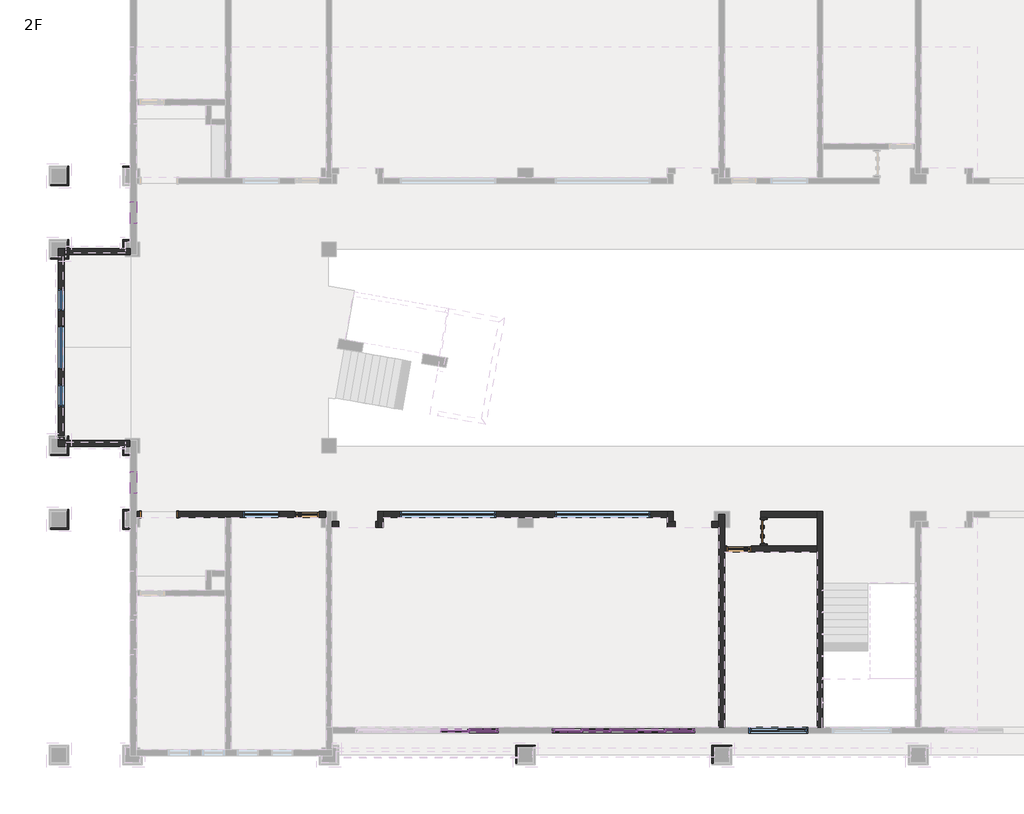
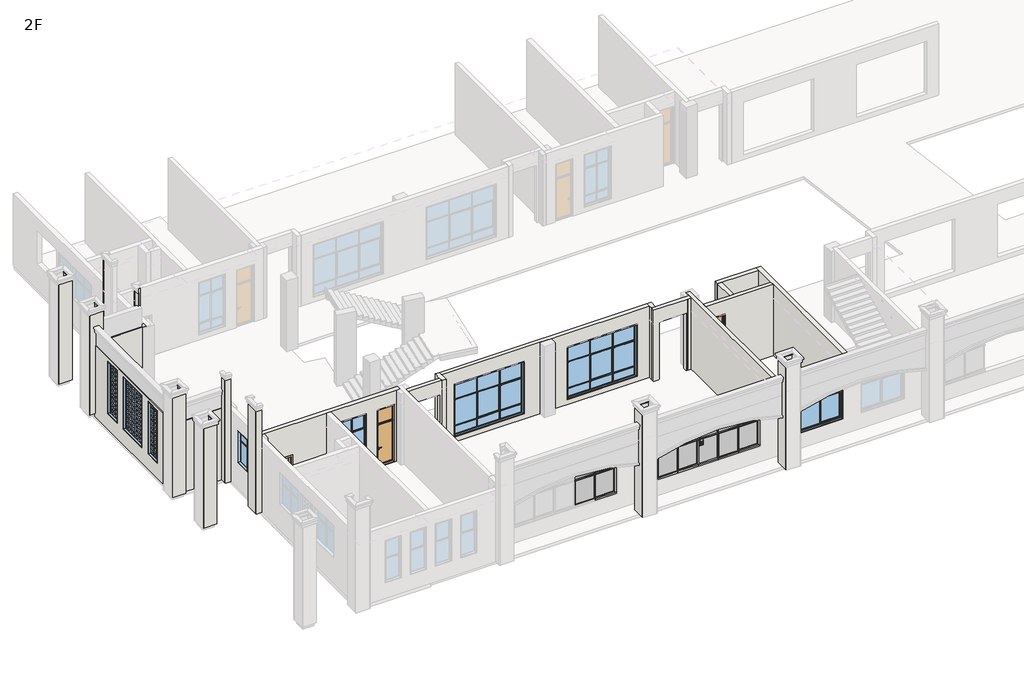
# One storey, part 2 of 16: 34 walls, 33 members, 11 plates, 9 windows, 4 doors.
"""IFC4 building model written with IfcOpenShell, lengths in millimetres."""

from ifc_helpers import new_model, si_unit, frame, origin, place, context, project, spatial, polyline, outline, extrude, faceted_brep, transform, mapped, element, save
from components import door_014e05d9, dk2_dk2_fd451be2, m2_m2_dfb05117, m2_m2_a1934b10, member_7564be38, member_1f4d75dd, member_0b7842ad, member_163d5e45, member_ffafc35e, member_2b011958, member_9c26cac3, member_6c42befd, member_a374fdad, plate_1cc4df2b, plate_4fa5932a, plate_00f9c624, plate_18a10205, plate_942ffe46, byc2_byc2_f14416d1, byc3_byc3_bbe23264, lc2_lc2_631be3da, lc4_lc4_4954e093, lc5_lc5_223d64ff, lc6_lc6_03a52bd1

model = new_model("IFC4")

# Units and contexts
model_context = context("Model", 3, world=origin())
ifc_project = project(units=[si_unit("LENGTHUNIT", "METRE", prefix="MILLI")], contexts=[model_context])

# Site, building, storey
site = spatial("IfcSite", under=ifc_project)
building = spatial("IfcBuilding", under=site)
storey = spatial("IfcBuildingStorey", under=building, Name="2F", Elevation=4200.0)

# Doors
placement = place(None, origin())
door_shape = door_014e05d9(model_context)
element("IfcDoor", 1, ObjectType="FM(丙）1 : FM(丙）1", at=placement, inside=storey, context=model_context, shape_type="MappedRepresentation", body=[
    mapped(door_shape, transform((28700.0000027, 9100.0, 4200.0), x_axis=(0.0, 1.0, 0.0), y_axis=(-1.0, 0.0, 0.0), z_axis=(0.0, 0.0, 1.0))),
])
dk2_dk2_shape = dk2_dk2_fd451be2(model_context)
element("IfcDoor", 2, ObjectType="DK2 : DK2", at=placement, inside=storey, context=model_context, shape_type="MappedRepresentation", body=[
    mapped(dk2_dk2_shape, transform((4075.0, 9800.276907, 4200.0), x_axis=(-1.0, 0.0, 0.0), y_axis=(0.0, -1.0, 0.0), z_axis=(0.0, 0.0, 1.0))),
])
m2_m2_shape = m2_m2_dfb05117(model_context)
element("IfcDoor", 3, ObjectType="M2 : M2", at=placement, inside=storey, context=model_context, shape_type="MappedRepresentation", body=[
    mapped(m2_m2_shape, transform((10100.0, 9800.276907, 4200.0), x_axis=(-1.0, 0.0, 0.0), y_axis=(0.0, -1.0, 0.0), z_axis=(0.0, 0.0, 1.0))),
])
m2_m2_2_shape = m2_m2_a1934b10(model_context)
element("IfcDoor", 4, ObjectType="M2 : M2", at=placement, inside=storey, context=model_context, shape_type="MappedRepresentation", body=[
    mapped(m2_m2_2_shape, transform((27700.0000004, 8399.6678355, 4200.0), x_axis=(1.0, 0.0, 0.0), y_axis=(0.0, 1.0, 0.0), z_axis=(0.0, 0.0, 1.0))),
])

# Members
member_shape = member_7564be38(model_context)
element("IfcMember", 5, ObjectType="矩形竖梃 : 教学楼 – 矩形竖梃 – 100x150mm", at=placement, inside=storey, context=model_context, shape_type="MappedRepresentation", body=[
    mapped(member_shape, transform((17899.9999993, 990.0, 7600.0), x_axis=(0.0, 0.0, 1.0), y_axis=(0.0, -1.0, 0.0), z_axis=(1.0, 0.0, 0.0))),
])
element("IfcMember", 6, ObjectType="矩形竖梃 : 教学楼 – 矩形竖梃 – 100x150mm", at=placement, inside=storey, context=model_context, shape_type="MappedRepresentation", body=[
    mapped(member_shape, transform((25900.0, 990.0, 7600.0), x_axis=(0.0, 0.0, 1.0), y_axis=(0.0, -1.0, 0.0), z_axis=(1.0, 0.0, 0.0))),
])
element("IfcMember", 7, ObjectType="矩形竖梃 : 教学楼 – 矩形竖梃 – 100x150mm", at=placement, inside=storey, context=model_context, shape_type="MappedRepresentation", body=[
    mapped(member_shape, transform((20100.0, 990.0, 5100.0), x_axis=(0.0, 0.0, -1.0), y_axis=(0.0, -1.0, 0.0), z_axis=(-1.0, 0.0, 0.0))),
])
member_2_shape = member_1f4d75dd(model_context)
element("IfcMember", 8, ObjectType="矩形竖梃 : 教学楼 – 矩形竖梃 – 50x150mm", at=placement, inside=storey, context=model_context, shape_type="MappedRepresentation", body=[
    mapped(member_2_shape, transform((22450.0, 990.0, 5200.0), x_axis=(1.0, 0.0, 0.0), y_axis=(0.0, -1.0, 0.0), z_axis=(0.0, 0.0, -1.0))),
])
element("IfcMember", 9, ObjectType="矩形竖梃 : 教学楼 – 矩形竖梃 – 50x150mm", at=placement, inside=storey, context=model_context, shape_type="MappedRepresentation", body=[
    mapped(member_2_shape, transform((23550.0, 990.0, 5200.0), x_axis=(1.0, 0.0, 0.0), y_axis=(0.0, -1.0, 0.0), z_axis=(0.0, 0.0, -1.0))),
])
member_3_shape = member_0b7842ad(model_context)
element("IfcMember", 10, ObjectType="矩形竖梃 : 教学楼 – 矩形竖梃 – 50x150mm", at=placement, inside=storey, context=model_context, shape_type="MappedRepresentation", body=[
    mapped(member_3_shape, transform((21300.0, 990.0, 6650.0), x_axis=(0.0, 0.0, 1.0), y_axis=(0.0, -1.0, 0.0), z_axis=(1.0, 0.0, 0.0))),
])
member_4_shape = member_163d5e45(model_context)
element("IfcMember", 11, ObjectType="矩形竖梃 : 教学楼 – 矩形竖梃 – 50x150mm", at=placement, inside=storey, context=model_context, shape_type="MappedRepresentation", body=[
    mapped(member_4_shape, transform((16699.9999993, 990.0, 6650.0), x_axis=(0.0, 0.0, 1.0), y_axis=(0.0, -1.0, 0.0), z_axis=(1.0, 0.0, 0.0))),
])
element("IfcMember", 12, ObjectType="矩形竖梃 : 教学楼 – 矩形竖梃 – 50x150mm", at=placement, inside=storey, context=model_context, shape_type="MappedRepresentation", body=[
    mapped(member_4_shape, transform((22450.0, 990.0, 6650.0), x_axis=(0.0, 0.0, 1.0), y_axis=(0.0, -1.0, 0.0), z_axis=(1.0, 0.0, 0.0))),
])
element("IfcMember", 13, ObjectType="矩形竖梃 : 教学楼 – 矩形竖梃 – 50x150mm", at=placement, inside=storey, context=model_context, shape_type="MappedRepresentation", body=[
    mapped(member_4_shape, transform((24700.0, 990.0, 6650.0), x_axis=(0.0, 0.0, 1.0), y_axis=(0.0, -1.0, 0.0), z_axis=(1.0, 0.0, 0.0))),
])
element("IfcMember", 14, ObjectType="矩形竖梃 : 教学楼 – 矩形竖梃 – 50x150mm", at=placement, inside=storey, context=model_context, shape_type="MappedRepresentation", body=[
    mapped(member_3_shape, transform((23550.0, 990.0, 6650.0), x_axis=(0.0, 0.0, 1.0), y_axis=(0.0, -1.0, 0.0), z_axis=(1.0, 0.0, 0.0))),
])
element("IfcMember", 15, ObjectType="矩形竖梃 : 教学楼 – 矩形竖梃 – 50x150mm", at=placement, inside=storey, context=model_context, shape_type="MappedRepresentation", body=[
    mapped(member_3_shape, transform((17799.9999993, 990.0, 6650.0), x_axis=(0.0, 0.0, 1.0), y_axis=(0.0, -1.0, 0.0), z_axis=(1.0, 0.0, 0.0))),
])
element("IfcMember", 16, ObjectType="矩形竖梃 : 教学楼 – 矩形竖梃 – 50x150mm", at=placement, inside=storey, context=model_context, shape_type="MappedRepresentation", body=[
    mapped(member_3_shape, transform((25800.0, 990.0, 6650.0), x_axis=(0.0, 0.0, 1.0), y_axis=(0.0, -1.0, 0.0), z_axis=(1.0, 0.0, 0.0))),
])
member_5_shape = member_ffafc35e(model_context)
element("IfcMember", 17, ObjectType="矩形竖梃 : 教学楼 – 矩形竖梃 – 100x150mm", at=placement, inside=storey, context=model_context, shape_type="MappedRepresentation", body=[
    mapped(member_5_shape, transform((21300.0, 990.0, 5100.0), x_axis=(0.0, 0.0, -1.0), y_axis=(0.0, -1.0, 0.0), z_axis=(-1.0, 0.0, 0.0))),
])
member_6_shape = member_2b011958(model_context)
element("IfcMember", 18, ObjectType="矩形竖梃 : 教学楼 – 矩形竖梃 – 100x150mm", at=placement, inside=storey, context=model_context, shape_type="MappedRepresentation", body=[
    mapped(member_6_shape, transform((22450.0, 990.0, 5100.0), x_axis=(0.0, 0.0, -1.0), y_axis=(0.0, -1.0, 0.0), z_axis=(-1.0, 0.0, 0.0))),
])
element("IfcMember", 19, ObjectType="矩形竖梃 : 教学楼 – 矩形竖梃 – 100x150mm", at=placement, inside=storey, context=model_context, shape_type="MappedRepresentation", body=[
    mapped(member_5_shape, transform((23550.0, 990.0, 5100.0), x_axis=(0.0, 0.0, -1.0), y_axis=(0.0, -1.0, 0.0), z_axis=(-1.0, 0.0, 0.0))),
])
element("IfcMember", 20, ObjectType="矩形竖梃 : 教学楼 – 矩形竖梃 – 100x150mm", at=placement, inside=storey, context=model_context, shape_type="MappedRepresentation", body=[
    mapped(member_shape, transform((16699.9999993, 990.0, 5100.0), x_axis=(0.0, 0.0, -1.0), y_axis=(0.0, -1.0, 0.0), z_axis=(-1.0, 0.0, 0.0))),
])
element("IfcMember", 21, ObjectType="矩形竖梃 : 教学楼 – 矩形竖梃 – 100x150mm", at=placement, inside=storey, context=model_context, shape_type="MappedRepresentation", body=[
    mapped(member_shape, transform((24700.0, 990.0, 5100.0), x_axis=(0.0, 0.0, -1.0), y_axis=(0.0, -1.0, 0.0), z_axis=(-1.0, 0.0, 0.0))),
])
element("IfcMember", 22, ObjectType="矩形竖梃 : 教学楼 – 矩形竖梃 – 100x150mm", at=placement, inside=storey, context=model_context, shape_type="MappedRepresentation", body=[
    mapped(member_shape, transform((21300.0, 990.0, 7600.0), x_axis=(0.0, 0.0, 1.0), y_axis=(0.0, -1.0, 0.0), z_axis=(1.0, 0.0, 0.0))),
])
element("IfcMember", 23, ObjectType="矩形竖梃 : 教学楼 – 矩形竖梃 – 100x150mm", at=placement, inside=storey, context=model_context, shape_type="MappedRepresentation", body=[
    mapped(member_5_shape, transform((16699.9999993, 990.0, 7600.0), x_axis=(0.0, 0.0, 1.0), y_axis=(0.0, -1.0, 0.0), z_axis=(1.0, 0.0, 0.0))),
])
element("IfcMember", 24, ObjectType="矩形竖梃 : 教学楼 – 矩形竖梃 – 100x150mm", at=placement, inside=storey, context=model_context, shape_type="MappedRepresentation", body=[
    mapped(member_5_shape, transform((22450.0, 990.0, 7600.0), x_axis=(0.0, 0.0, 1.0), y_axis=(0.0, -1.0, 0.0), z_axis=(1.0, 0.0, 0.0))),
])
element("IfcMember", 25, ObjectType="矩形竖梃 : 教学楼 – 矩形竖梃 – 100x150mm", at=placement, inside=storey, context=model_context, shape_type="MappedRepresentation", body=[
    mapped(member_5_shape, transform((24700.0, 990.0, 7600.0), x_axis=(0.0, 0.0, 1.0), y_axis=(0.0, -1.0, 0.0), z_axis=(1.0, 0.0, 0.0))),
])
element("IfcMember", 26, ObjectType="矩形竖梃 : 教学楼 – 矩形竖梃 – 100x150mm", at=placement, inside=storey, context=model_context, shape_type="MappedRepresentation", body=[
    mapped(member_6_shape, transform((23550.0, 990.0, 7600.0), x_axis=(0.0, 0.0, 1.0), y_axis=(0.0, -1.0, 0.0), z_axis=(1.0, 0.0, 0.0))),
])
member_7_shape = member_9c26cac3(model_context)
element("IfcMember", 27, ObjectType="矩形竖梃 : 教学楼 – 矩形竖梃 – 50x150mm", at=placement, inside=storey, context=model_context, shape_type="MappedRepresentation", body=[
    mapped(member_7_shape, transform((16699.9999993, 990.0, 6675.0), x_axis=(1.0, 0.0, 0.0), y_axis=(0.0, -1.0, 0.0), z_axis=(0.0, 0.0, -1.0))),
])
element("IfcMember", 28, ObjectType="矩形竖梃 : 教学楼 – 矩形竖梃 – 50x150mm", at=placement, inside=storey, context=model_context, shape_type="MappedRepresentation", body=[
    mapped(member_7_shape, transform((21300.0, 990.0, 6675.0), x_axis=(1.0, 0.0, 0.0), y_axis=(0.0, -1.0, 0.0), z_axis=(0.0, 0.0, -1.0))),
])
element("IfcMember", 29, ObjectType="矩形竖梃 : 教学楼 – 矩形竖梃 – 50x150mm", at=placement, inside=storey, context=model_context, shape_type="MappedRepresentation", body=[
    mapped(member_7_shape, transform((22450.0, 990.0, 6675.0), x_axis=(1.0, 0.0, 0.0), y_axis=(0.0, -1.0, 0.0), z_axis=(0.0, 0.0, -1.0))),
])
element("IfcMember", 30, ObjectType="矩形竖梃 : 教学楼 – 矩形竖梃 – 50x150mm", at=placement, inside=storey, context=model_context, shape_type="MappedRepresentation", body=[
    mapped(member_7_shape, transform((23550.0, 990.0, 6675.0), x_axis=(1.0, 0.0, 0.0), y_axis=(0.0, -1.0, 0.0), z_axis=(0.0, 0.0, -1.0))),
])
element("IfcMember", 31, ObjectType="矩形竖梃 : 教学楼 – 矩形竖梃 – 50x150mm", at=placement, inside=storey, context=model_context, shape_type="MappedRepresentation", body=[
    mapped(member_7_shape, transform((24700.0, 990.0, 6675.0), x_axis=(1.0, 0.0, 0.0), y_axis=(0.0, -1.0, 0.0), z_axis=(0.0, 0.0, -1.0))),
])
member_8_shape = member_6c42befd(model_context)
element("IfcMember", 32, ObjectType="矩形竖梃 : 教学楼 – 矩形竖梃 – 100x150mm", at=placement, inside=storey, context=model_context, shape_type="MappedRepresentation", body=[
    mapped(member_8_shape, transform((20100.0, 990.0, 7500.0), x_axis=(-1.0, 0.0, 0.0), y_axis=(0.0, -1.0, 0.0), z_axis=(0.0, 0.0, 1.0))),
])
member_9_shape = member_a374fdad(model_context)
element("IfcMember", 33, ObjectType="矩形竖梃 : 教学楼 – 矩形竖梃 – 100x150mm", at=placement, inside=storey, context=model_context, shape_type="MappedRepresentation", body=[
    mapped(member_9_shape, transform((17899.9999993, 990.0, 5200.0), x_axis=(1.0, 0.0, 0.0), y_axis=(0.0, -1.0, 0.0), z_axis=(0.0, 0.0, -1.0))),
])
element("IfcMember", 34, ObjectType="矩形竖梃 : 教学楼 – 矩形竖梃 – 100x150mm", at=placement, inside=storey, context=model_context, shape_type="MappedRepresentation", body=[
    mapped(member_9_shape, transform((25900.0, 990.0, 5200.0), x_axis=(1.0, 0.0, 0.0), y_axis=(0.0, -1.0, 0.0), z_axis=(0.0, 0.0, -1.0))),
])
element("IfcMember", 35, ObjectType="矩形竖梃 : 教学楼 – 矩形竖梃 – 100x150mm", at=placement, inside=storey, context=model_context, shape_type="MappedRepresentation", body=[
    mapped(member_8_shape, transform((17899.9999993, 990.0, 6650.0), x_axis=(1.0, 0.0, 0.0), y_axis=(0.0, -1.0, 0.0), z_axis=(0.0, 0.0, -1.0))),
])
element("IfcMember", 36, ObjectType="矩形竖梃 : 教学楼 – 矩形竖梃 – 100x150mm", at=placement, inside=storey, context=model_context, shape_type="MappedRepresentation", body=[
    mapped(member_8_shape, transform((25900.0, 990.0, 6650.0), x_axis=(1.0, 0.0, 0.0), y_axis=(0.0, -1.0, 0.0), z_axis=(0.0, 0.0, -1.0))),
])
element("IfcMember", 37, ObjectType="矩形竖梃 : 教学楼 – 矩形竖梃 – 100x150mm", at=placement, inside=storey, context=model_context, shape_type="MappedRepresentation", body=[
    mapped(member_9_shape, transform((20100.0, 990.0, 6650.0), x_axis=(-1.0, 0.0, 0.0), y_axis=(0.0, -1.0, 0.0), z_axis=(0.0, 0.0, 1.0))),
])

# Plates
plate_shape = plate_1cc4df2b(model_context)
element("IfcPlate", 38, ObjectType="系统嵌板 : 玻璃", at=placement, inside=storey, context=model_context, shape_type="MappedRepresentation", body=[
    mapped(plate_shape, transform((17262.4999993, 990.0, 6675.0), x_axis=(1.0, 0.0, 0.0), y_axis=(0.0, 1.0, 0.0), z_axis=(0.0, 0.0, 1.0))),
])
element("IfcPlate", 39, ObjectType="系统嵌板 : 玻璃", at=placement, inside=storey, context=model_context, shape_type="MappedRepresentation", body=[
    mapped(plate_shape, transform((20737.5, 990.0, 6675.0), x_axis=(1.0, 0.0, 0.0), y_axis=(0.0, 1.0, 0.0), z_axis=(0.0, 0.0, 1.0))),
])
element("IfcPlate", 40, ObjectType="系统嵌板 : 玻璃", at=placement, inside=storey, context=model_context, shape_type="MappedRepresentation", body=[
    mapped(plate_shape, transform((25262.5, 990.0, 6675.0), x_axis=(1.0, 0.0, 0.0), y_axis=(0.0, 1.0, 0.0), z_axis=(0.0, 0.0, 1.0))),
])
plate_2_shape = plate_4fa5932a(model_context)
element("IfcPlate", 41, ObjectType="系统嵌板 : 玻璃", at=placement, inside=storey, context=model_context, shape_type="MappedRepresentation", body=[
    mapped(plate_2_shape, transform((16124.9999993, 990.0, 6675.0), x_axis=(1.0, 0.0, 0.0), y_axis=(0.0, 1.0, 0.0), z_axis=(0.0, 0.0, 1.0))),
])
element("IfcPlate", 42, ObjectType="系统嵌板 : 玻璃", at=placement, inside=storey, context=model_context, shape_type="MappedRepresentation", body=[
    mapped(plate_2_shape, transform((21875.0, 990.0, 6675.0), x_axis=(1.0, 0.0, 0.0), y_axis=(0.0, 1.0, 0.0), z_axis=(0.0, 0.0, 1.0))),
])
element("IfcPlate", 43, ObjectType="系统嵌板 : 玻璃", at=placement, inside=storey, context=model_context, shape_type="MappedRepresentation", body=[
    mapped(plate_2_shape, transform((24125.0, 990.0, 6675.0), x_axis=(1.0, 0.0, 0.0), y_axis=(0.0, 1.0, 0.0), z_axis=(0.0, 0.0, 1.0))),
])
plate_3_shape = plate_00f9c624(model_context)
element("IfcPlate", 44, ObjectType="系统嵌板 : 玻璃", at=placement, inside=storey, context=model_context, shape_type="MappedRepresentation", body=[
    mapped(plate_3_shape, transform((23000.0, 990.0, 6675.0), x_axis=(1.0, 0.0, 0.0), y_axis=(0.0, 1.0, 0.0), z_axis=(0.0, 0.0, 1.0))),
])
plate_4_shape = plate_18a10205(model_context)
element("IfcPlate", 45, ObjectType="教学楼 - 窗嵌板：双扇推拉窗 : 教学楼 - 窗嵌板：双扇推拉窗", at=placement, inside=storey, context=model_context, shape_type="MappedRepresentation", body=[
    mapped(plate_4_shape, transform((21312.5, 990.0, 5200.0), x_axis=(1.0, 0.0, 0.0), y_axis=(0.0, 1.0, 0.0), z_axis=(0.0, 0.0, 1.0))),
])
element("IfcPlate", 46, ObjectType="教学楼 - 窗嵌板：双扇推拉窗 : 教学楼 - 窗嵌板：双扇推拉窗", at=placement, inside=storey, context=model_context, shape_type="MappedRepresentation", body=[
    mapped(plate_4_shape, transform((16687.4999993, 990.0, 5200.0), x_axis=(1.0, 0.0, 0.0), y_axis=(0.0, 1.0, 0.0), z_axis=(0.0, 0.0, 1.0))),
])
element("IfcPlate", 47, ObjectType="教学楼 - 窗嵌板：双扇推拉窗 : 教学楼 - 窗嵌板：双扇推拉窗", at=placement, inside=storey, context=model_context, shape_type="MappedRepresentation", body=[
    mapped(plate_4_shape, transform((24687.5, 990.0, 5200.0), x_axis=(1.0, 0.0, 0.0), y_axis=(0.0, 1.0, 0.0), z_axis=(0.0, 0.0, 1.0))),
])
plate_5_shape = plate_942ffe46(model_context)
element("IfcPlate", 48, ObjectType="教学楼 - 窗嵌板：外贴消防通道 : 教学楼 - 窗嵌板：外贴消防通道", at=placement, inside=storey, context=model_context, shape_type="MappedRepresentation", body=[
    mapped(plate_5_shape, transform((23000.0, 990.0, 5200.0), x_axis=(1.0, 0.0, 0.0), y_axis=(0.0, 1.0, 0.0), z_axis=(0.0, 0.0, 1.0))),
])

# Walls
element("IfcWall", 49, ObjectType="教学楼 – 涂料内墙 – 200mm", at=placement, inside=storey, context=model_context, shape_type="Brep", body=[
    faceted_brep([(27117.0, 1125.0, 4200.0), (27117.0, 8282.6678355, 4200.0), (27117.0, 8516.6678355, 4200.0), (27117.0, 9283.0, 4200.0), (27117.0, 9800.3045362, 4200.0), (27117.0, 9800.3045362, 8400.0), (27117.0, 9283.0, 8400.0), (27117.0, 8516.6678355, 8400.0), (27117.0, 8282.6678355, 8400.0), (27117.0, 1125.0, 8400.0), (26883.0, 1125.0, 4200.0), (26883.0, 1125.0, 8400.0), (26883.0, 9283.0, 8400.0), (26883.0, 9283.2768993, 8400.0), (26883.0, 9517.2768993, 8400.0), (26883.0, 9800.3045362, 8400.0), (26883.0, 9800.3045362, 4200.0), (26883.0, 9517.2768993, 4200.0), (26883.0, 9283.2768993, 4200.0), (26883.0, 9283.0, 4200.0)], [[[0, 1, 2, 3, 4, 5, 6, 7, 8, 9]], [[10, 11, 12, 13, 14, 15, 16, 17, 18, 19]], [[4, 3, 2, 1, 0, 10, 19, 18, 17, 16]], [[5, 4, 16, 15]], [[9, 8, 7, 6, 5, 15, 14, 13, 12, 11]], [[0, 9, 11, 10]]]),
])
element("IfcWall", 50, ObjectType="教学楼 – 涂料内墙 – 200mm", at=placement, inside=storey, context=model_context, shape_type="Brep", body=[
    faceted_brep([(31117.0000029, 1125.0, 4200.0), (31117.0000029, 9917.3045362, 4200.0), (31117.0000029, 9917.3045362, 8400.0), (31117.0000029, 1125.0, 8400.0), (30883.0000029, 1125.0, 4200.0), (30883.0000029, 1125.0, 8400.0), (30883.0000029, 8282.6678355, 8400.0), (30883.0000029, 8516.6678355, 8400.0), (30883.0000029, 9683.3045362, 8400.0), (30883.0000029, 9917.3045362, 8400.0), (30883.0000029, 9917.3045362, 4200.0), (30883.0000029, 9683.3045362, 4200.0), (30883.0000029, 8516.6678355, 4200.0), (30883.0000029, 8282.6678355, 4200.0)], [[[0, 1, 2, 3]], [[4, 5, 6, 7, 8, 9, 10, 11, 12, 13]], [[1, 0, 4, 13, 12, 11, 10]], [[3, 2, 9, 8, 7, 6, 5]], [[2, 1, 10, 9]], [[0, 3, 5, 4]]]),
])
element("IfcWall", 51, ObjectType="教学楼 – 涂料内墙 – 200mm", at=placement, inside=storey, context=model_context, shape_type="Brep", body=[
    faceted_brep([(28583.0000027, 9683.3045362, 4200.0), (28817.0000027, 9683.3045362, 4200.0), (30883.0000029, 9683.3045362, 4200.0), (30883.0000029, 9683.3045362, 8400.0), (28817.0000027, 9683.3045362, 8400.0), (28583.0000027, 9683.3045362, 8400.0), (28583.0000027, 9917.3045362, 4200.0), (28583.0000027, 9917.3045362, 8400.0), (30883.0000029, 9917.3045362, 8400.0), (30883.0000029, 9917.3045362, 4200.0)], [[[0, 1, 2, 3, 4, 5]], [[6, 7, 8, 9]], [[2, 1, 0, 6, 9]], [[5, 4, 3, 8, 7]], [[3, 2, 9, 8]], [[0, 5, 7, 6]]]),
])
element("IfcWall", 52, ObjectType="教学楼 – 涂料内墙 – 200mm", at=placement, inside=storey, context=model_context, shape_type="Brep", body=[
    faceted_brep([(24782.9999964, 9517.2768993, 8400.0), (25016.9999964, 9517.2768993, 8400.0), (26683.0, 9517.2768993, 8400.0), (26883.0, 9517.2768993, 8400.0), (26883.0, 9517.2768993, 4200.0), (26683.0, 9517.2768993, 4200.0), (26599.9999991, 9517.2768993, 4200.0), (26599.9999991, 9517.2768993, 7600.0), (25099.9999991, 9517.2768993, 7600.0), (25099.9999991, 9517.2768993, 4200.0), (25016.9999964, 9517.2768993, 4200.0), (24782.9999964, 9517.2768993, 4200.0), (26883.0, 9283.2768993, 8400.0), (26683.0, 9283.2768993, 8400.0), (24782.9999964, 9283.2768993, 8400.0), (24782.9999964, 9283.2768993, 4200.0), (25099.9999991, 9283.2768993, 4200.0), (25099.9999991, 9283.2768993, 7600.0), (26599.9999991, 9283.2768993, 7600.0), (26599.9999991, 9283.2768993, 4200.0), (26683.0, 9283.2768993, 4200.0), (26883.0, 9283.2768993, 4200.0)], [[[0, 1, 2, 3, 4, 5, 6, 7, 8, 9, 10, 11]], [[12, 13, 14, 15, 16, 17, 18, 19, 20, 21]], [[15, 11, 10, 9, 16]], [[4, 21, 20, 19, 6, 5]], [[3, 2, 1, 0, 14, 13, 12]], [[0, 11, 15, 14]], [[4, 3, 12, 21]], [[18, 7, 6, 19]], [[7, 18, 17, 8]], [[8, 17, 16, 9]]]),
])
element("IfcWall", 53, ObjectType="教学楼 – 涂料内墙 – 200mm", at=placement, inside=storey, context=model_context, shape_type="Brep", body=[
    faceted_brep([(25016.9999964, 9517.2768993, 4200.0), (25016.9999964, 9917.3045359, 4200.0), (25016.9999964, 9917.3045359, 8400.0), (25016.9999964, 9517.2768993, 8400.0), (24782.9999964, 9517.2768993, 4200.0), (24782.9999964, 9517.2768993, 8400.0), (24782.9999964, 9683.3045359, 8400.0), (24782.9999964, 9917.3045359, 8400.0), (24782.9999964, 9917.3045359, 4200.0), (24782.9999964, 9683.3045359, 4200.0)], [[[0, 1, 2, 3]], [[4, 5, 6, 7, 8, 9]], [[1, 0, 4, 9, 8]], [[3, 2, 7, 6, 5]], [[0, 3, 5, 4]], [[2, 1, 8, 7]]]),
])
element("IfcWall", 54, ObjectType="教学楼 – 涂料内墙 – 200mm", at=placement, inside=storey, context=model_context, shape_type="Brep", body=[
    faceted_brep([(24782.9999964, 9917.3045359, 4200.0), (13216.9999996, 9917.3045359, 4200.0), (13216.9999996, 9917.3045359, 8400.0), (24782.9999964, 9917.3045359, 8400.0), (24099.9999993, 9917.3045359, 4500.0), (24099.9999993, 9917.3045359, 7600.0), (20199.9999993, 9917.3045359, 7600.0), (20199.9999993, 9917.3045359, 4500.0), (17799.9999993, 9917.3045359, 4500.0), (17799.9999993, 9917.3045359, 7600.0), (13899.9999993, 9917.3045359, 7600.0), (13899.9999993, 9917.3045359, 4500.0), (24782.9999964, 9683.3045359, 4200.0), (24782.9999964, 9683.3045359, 8400.0), (19317.0, 9683.3045359, 8400.0), (18683.0, 9683.3045359, 8400.0), (13216.9999996, 9683.3045359, 8400.0), (13216.9999996, 9683.3045359, 4200.0), (18683.0, 9683.3045359, 4200.0), (19317.0, 9683.3045359, 4200.0), (24099.9999993, 9683.3045359, 4500.0), (20199.9999993, 9683.3045359, 4500.0), (20199.9999993, 9683.3045359, 7600.0), (24099.9999993, 9683.3045359, 7600.0), (17799.9999993, 9683.3045359, 4500.0), (13899.9999993, 9683.3045359, 4500.0), (13899.9999993, 9683.3045359, 7600.0), (17799.9999993, 9683.3045359, 7600.0)], [[[0, 1, 2, 3], [4, 5, 6, 7], [8, 9, 10, 11]], [[12, 13, 14, 15, 16, 17, 18, 19], [20, 21, 22, 23], [24, 25, 26, 27]], [[1, 0, 12, 19, 18, 17]], [[3, 2, 16, 15, 14, 13]], [[0, 3, 13, 12]], [[2, 1, 17, 16]], [[5, 4, 20, 23]], [[6, 5, 23, 22]], [[7, 6, 22, 21]], [[4, 7, 21, 20]], [[9, 8, 24, 27]], [[10, 9, 27, 26]], [[11, 10, 26, 25]], [[8, 11, 25, 24]]]),
])
element("IfcWall", 55, ObjectType="教学楼 – 涂料内墙 – 200mm", at=placement, inside=storey, context=model_context, shape_type="Brep", body=[
    faceted_brep([(12982.9999996, 9917.3045359, 4200.0), (12982.9999996, 9517.2768988, 4200.0), (12982.9999996, 9283.2768988, 4200.0), (12982.9999996, 9283.2768988, 8400.0), (12982.9999996, 9517.2768988, 8400.0), (12982.9999996, 9917.3045359, 8400.0), (13216.9999996, 9917.3045359, 4200.0), (13216.9999996, 9917.3045359, 8400.0), (13216.9999996, 9683.3045359, 8400.0), (13216.9999996, 9283.2768988, 8400.0), (13216.9999996, 9283.2768988, 4200.0), (13216.9999996, 9683.3045359, 4200.0)], [[[0, 1, 2, 3, 4, 5]], [[6, 7, 8, 9, 10, 11]], [[2, 1, 0, 6, 11, 10]], [[5, 4, 3, 9, 8, 7]], [[3, 2, 10, 9]], [[0, 5, 7, 6]]]),
])
element("IfcWall", 56, ObjectType="教学楼 – 涂料内墙 – 200mm", at=placement, inside=storey, context=model_context, shape_type="Brep", body=[
    faceted_brep([(11117.0, 9517.2768988, 8400.0), (11317.0, 9517.2768988, 8400.0), (12982.9999996, 9517.2768988, 8400.0), (12982.9999996, 9517.2768988, 4200.0), (12900.0000009, 9517.2768988, 4200.0), (12900.0000009, 9517.2768988, 7600.0), (11400.0000009, 9517.2768988, 7600.0), (11400.0000009, 9517.2768988, 4200.0), (11317.0, 9517.2768988, 4200.0), (11117.0, 9517.2768988, 4200.0), (12982.9999996, 9283.2768988, 8400.0), (11317.0, 9283.2768988, 8400.0), (11117.0, 9283.2768988, 8400.0), (11117.0, 9283.2768988, 4200.0), (11317.0, 9283.2768988, 4200.0), (11400.0000009, 9283.2768988, 4200.0), (11400.0000009, 9283.2768988, 7600.0), (12900.0000009, 9283.2768988, 7600.0), (12900.0000009, 9283.2768988, 4200.0), (12982.9999996, 9283.2768988, 4200.0)], [[[0, 1, 2, 3, 4, 5, 6, 7, 8, 9]], [[10, 11, 12, 13, 14, 15, 16, 17, 18, 19]], [[3, 19, 18, 4]], [[13, 9, 8, 7, 15, 14]], [[2, 1, 0, 12, 11, 10]], [[3, 2, 10, 19]], [[0, 9, 13, 12]], [[17, 5, 4, 18]], [[5, 17, 16, 6]], [[6, 16, 15, 7]]]),
])
element("IfcWall", 57, ObjectType="教学楼 – 涂料内墙 – 200mm", at=placement, inside=storey, context=model_context, shape_type="Brep", body=[
    faceted_brep([(10883.0, 9683.276907, 8400.0), (10683.0, 9683.276907, 8400.0), (7017.0000003, 9683.276907, 8400.0), (6783.0000003, 9683.276907, 8400.0), (3300.0, 9683.276907, 8400.0), (3167.0000002, 9683.276907, 8400.0), (3167.0000002, 9683.276907, 4200.0), (3300.0, 9683.276907, 4200.0), (3300.0, 9683.276907, 6600.0), (4850.0, 9683.276907, 6600.0), (4850.0, 9683.276907, 4200.0), (6783.0000003, 9683.276907, 4200.0), (7017.0000003, 9683.276907, 4200.0), (9600.0, 9683.276907, 4200.0), (9600.0, 9683.276907, 7600.0), (10600.0, 9683.276907, 7600.0), (10600.0, 9683.276907, 4200.0), (10683.0, 9683.276907, 4200.0), (10883.0, 9683.276907, 4200.0), (9000.0000037, 9683.276907, 4500.0), (7500.0000037, 9683.276907, 4500.0), (7500.0000037, 9683.276907, 7600.0), (9000.0000037, 9683.276907, 7600.0), (3167.0000002, 9917.276907, 8400.0), (10883.0, 9917.276907, 8400.0), (10883.0, 9917.276907, 4200.0), (10600.0, 9917.276907, 4200.0), (10600.0, 9917.276907, 7600.0), (9600.0, 9917.276907, 7600.0), (9600.0, 9917.276907, 4200.0), (4850.0, 9917.276907, 4200.0), (4850.0, 9917.276907, 6600.0), (3300.0, 9917.276907, 6600.0), (3300.0, 9917.276907, 4200.0), (3167.0000002, 9917.276907, 4200.0), (9000.0000037, 9917.276907, 4500.0), (9000.0000037, 9917.276907, 7600.0), (7500.0000037, 9917.276907, 7600.0), (7500.0000037, 9917.276907, 4500.0)], [[[0, 1, 2, 3, 4, 5, 6, 7, 8, 9, 10, 11, 12, 13, 14, 15, 16, 17, 18], [19, 20, 21, 22]], [[23, 24, 25, 26, 27, 28, 29, 30, 31, 32, 33, 34], [35, 36, 37, 38]], [[25, 18, 17, 16, 26]], [[6, 34, 33, 7]], [[10, 30, 29, 13, 12, 11]], [[5, 4, 3, 2, 1, 0, 24, 23]], [[0, 18, 25, 24]], [[6, 5, 23, 34]], [[32, 8, 7, 33]], [[8, 32, 31, 9]], [[9, 31, 30, 10]], [[28, 14, 13, 29]], [[14, 28, 27, 15]], [[15, 27, 26, 16]], [[36, 35, 19, 22]], [[37, 36, 22, 21]], [[38, 37, 21, 20]], [[35, 38, 20, 19]]]),
])
element("IfcWall", 58, ObjectType="教学楼 – 涂料内墙 – 200mm", at=placement, inside=storey, context=model_context, shape_type="SweptSolid", body=[
    extrude(outline(polyline([(8516.6678355, 8400.0), (9683.3045362, 8400.0), (9683.3045362, 4200.0), (9600.0, 4200.0), (9600.0, 6300.0), (8600.0, 6300.0), (8600.0, 4200.0), (8516.6678355, 4200.0), (8516.6678355, 8400.0)])), frame((28583.0000027, 0.0, 0.0), z_axis=(1.0, 0.0, 0.0), x_axis=(0.0, 1.0, 0.0)), (0.0, 0.0, 1.0), 234.0),
])
element("IfcWall", 59, ObjectType="教学楼 – 涂料内墙 – 200mm", at=placement, inside=storey, context=model_context, shape_type="Brep", body=[
    faceted_brep([(30883.0000029, 8282.6678355, 8400.0), (27117.0, 8282.6678355, 8400.0), (27117.0, 8282.6678355, 4200.0), (27200.0000004, 8282.6678355, 4200.0), (27200.0000004, 8282.6678355, 7600.0), (28200.0000004, 8282.6678355, 7600.0), (28200.0000004, 8282.6678355, 4200.0), (30883.0000029, 8282.6678355, 4200.0), (27117.0, 8516.6678355, 8400.0), (28583.0000027, 8516.6678355, 8400.0), (28817.0000027, 8516.6678355, 8400.0), (30883.0000029, 8516.6678355, 8400.0), (30883.0000029, 8516.6678355, 4200.0), (28817.0000027, 8516.6678355, 4200.0), (28583.0000027, 8516.6678355, 4200.0), (28200.0000004, 8516.6678355, 4200.0), (28200.0000004, 8516.6678355, 7600.0), (27200.0000004, 8516.6678355, 7600.0), (27200.0000004, 8516.6678355, 4200.0), (27117.0, 8516.6678355, 4200.0)], [[[0, 1, 2, 3, 4, 5, 6, 7]], [[8, 9, 10, 11, 12, 13, 14, 15, 16, 17, 18, 19]], [[12, 7, 6, 15, 14, 13]], [[2, 19, 18, 3]], [[1, 0, 11, 10, 9, 8]], [[0, 7, 12, 11]], [[2, 1, 8, 19]], [[5, 16, 15, 6]], [[16, 5, 4, 17]], [[17, 4, 3, 18]]]),
])
element("IfcWall", 60, ObjectType="教学楼 – 饰面砖外墙 – 200mm", at=placement, inside=storey, context=model_context, shape_type="Brep", body=[
    faceted_brep([(2917.0000002, 12816.6954636, 4200.0), (2700.0, 12816.6954636, 4200.0), (300.0, 12816.6954636, 4200.0), (216.9999988, 12816.6954636, 4200.0), (-33.0000012, 12816.6954636, 4200.0), (-33.0000012, 12816.6954636, 8400.0), (216.9999988, 12816.6954636, 8400.0), (300.0, 12816.6954636, 8400.0), (2700.0, 12816.6954636, 8400.0), (2917.0000002, 12816.6954636, 8400.0), (2917.0000002, 12566.6954636, 4200.0), (2917.0000002, 12566.6954636, 8400.0), (2700.0, 12566.6954636, 8400.0), (300.0, 12566.6954636, 8400.0), (-33.0000012, 12566.6954636, 8400.0), (-33.0000012, 12566.6954636, 4200.0), (300.0, 12566.6954636, 4200.0), (2600.0, 12566.6954636, 4200.0), (2650.0, 12566.6954636, 4200.0), (2700.0, 12566.6954636, 4200.0)], [[[0, 1, 2, 3, 4, 5, 6, 7, 8, 9]], [[10, 11, 12, 13, 14, 15, 16, 17, 18, 19]], [[4, 3, 2, 1, 0, 10, 19, 18, 17, 16, 15]], [[9, 8, 7, 6, 5, 14, 13, 12, 11]], [[5, 4, 15, 14]], [[0, 9, 11, 10]]]),
])
element("IfcWall", 61, ObjectType="教学楼 – 饰面砖外墙 – 200mm", at=placement, inside=storey, context=model_context, shape_type="Brep", body=[
    faceted_brep([(216.9999988, 12816.6954636, 4200.0), (216.9999988, 12900.0, 4200.0), (216.9999988, 20300.0, 4200.0), (216.9999988, 20382.7242304, 4200.0), (216.9999988, 20632.7242304, 4200.0), (216.9999988, 20632.7242304, 8400.0), (216.9999988, 20382.7242304, 8400.0), (216.9999988, 20300.0, 8400.0), (216.9999988, 12900.0, 8400.0), (216.9999988, 12816.6954636, 8400.0), (216.9999988, 15100.0, 5100.0), (216.9999988, 14200.0, 5100.0), (216.9999988, 14200.0, 8200.0), (216.9999988, 15100.0, 8200.0), (216.9999988, 17499.6954632, 5100.0), (216.9999988, 15699.6954632, 5100.0), (216.9999988, 15699.6954632, 8200.0), (216.9999988, 17499.6954632, 8200.0), (216.9999988, 18100.0, 5100.0), (216.9999988, 18100.0, 8200.0), (216.9999988, 19000.0, 8200.0), (216.9999988, 19000.0, 5100.0), (-33.0000012, 12816.6954636, 4200.0), (-33.0000012, 12816.6954636, 8400.0), (-33.0000012, 12900.0, 8400.0), (-33.0000012, 20300.0, 8400.0), (-33.0000012, 20632.7242304, 8400.0), (-33.0000012, 20632.7242304, 4200.0), (-33.0000012, 20300.0, 4200.0), (-33.0000012, 12900.0, 4200.0), (-33.0000012, 15100.0, 5100.0), (-33.0000012, 15100.0, 8200.0), (-33.0000012, 14200.0, 8200.0), (-33.0000012, 14200.0, 5100.0), (-33.0000012, 17499.6954632, 5100.0), (-33.0000012, 17499.6954632, 8200.0), (-33.0000012, 15699.6954632, 8200.0), (-33.0000012, 15699.6954632, 5100.0), (-33.0000012, 18100.0, 5100.0), (-33.0000012, 19000.0, 5100.0), (-33.0000012, 19000.0, 8200.0), (-33.0000012, 18100.0, 8200.0)], [[[0, 1, 2, 3, 4, 5, 6, 7, 8, 9], [10, 11, 12, 13], [14, 15, 16, 17], [18, 19, 20, 21]], [[22, 23, 24, 25, 26, 27, 28, 29], [30, 31, 32, 33], [34, 35, 36, 37], [38, 39, 40, 41]], [[4, 3, 2, 1, 0, 22, 29, 28, 27]], [[9, 8, 7, 6, 5, 26, 25, 24, 23]], [[0, 9, 23, 22]], [[5, 4, 27, 26]], [[31, 30, 10, 13]], [[32, 31, 13, 12]], [[33, 32, 12, 11]], [[30, 33, 11, 10]], [[35, 34, 14, 17]], [[36, 35, 17, 16]], [[37, 36, 16, 15]], [[34, 37, 15, 14]], [[19, 18, 38, 41]], [[20, 19, 41, 40]], [[21, 20, 40, 39]], [[18, 21, 39, 38]]]),
])
element("IfcWall", 62, ObjectType="教学楼 – 饰面砖外墙 – 200mm", at=placement, inside=storey, context=model_context, shape_type="Brep", body=[
    faceted_brep([(216.9999988, 20382.7242304, 4200.0), (300.0, 20382.7242304, 4200.0), (2700.0, 20382.7242304, 4200.0), (2917.0000002, 20382.7242304, 4200.0), (2917.0000002, 20382.7242304, 8400.0), (2700.0, 20382.7242304, 8400.0), (300.0, 20382.7242304, 8400.0), (216.9999988, 20382.7242304, 8400.0), (216.9999988, 20632.7242304, 4200.0), (216.9999988, 20632.7242304, 8400.0), (300.0, 20632.7242304, 8400.0), (2700.0, 20632.7242304, 8400.0), (2917.0000002, 20632.7242304, 8400.0), (2917.0000002, 20632.7242304, 4200.0), (2700.0, 20632.7242304, 4200.0), (300.0, 20632.7242304, 4200.0)], [[[0, 1, 2, 3, 4, 5, 6, 7]], [[8, 9, 10, 11, 12, 13, 14, 15]], [[3, 2, 1, 0, 8, 15, 14, 13]], [[7, 6, 5, 4, 12, 11, 10, 9]], [[0, 7, 9, 8]], [[4, 3, 13, 12]]]),
])
element("IfcWall", 63, ObjectType="教学楼 - 浅驼色装饰板 - 50mm", at=placement, inside=storey, context=model_context, shape_type="Brep", body=[
    faceted_brep([(400.0, 23250.0, 4400.0), (350.0, 23250.0, 4400.0), (-350.0, 23250.0, 4400.0), (-350.0, 23250.0, 10300.0), (350.0, 23250.0, 10300.0), (400.0, 23250.0, 10300.0), (400.0, 23200.0, 4400.0), (400.0, 23200.0, 10300.0), (-350.0, 23200.0, 10300.0), (-350.0, 23200.0, 4400.0)], [[[0, 1, 2, 3, 4, 5]], [[6, 7, 8, 9]], [[2, 1, 0, 6, 9]], [[5, 4, 3, 8, 7]], [[0, 5, 7, 6]], [[3, 2, 9, 8]]]),
])
element("IfcWall", 64, ObjectType="教学楼 - 浅驼色装饰板 - 50mm", at=placement, inside=storey, context=model_context, shape_type="Brep", body=[
    faceted_brep([(350.0, 24000.0, 4400.0), (350.0, 23950.0, 4400.0), (350.0, 23250.0, 4400.0), (350.0, 23250.0, 10300.0), (350.0, 23950.0, 10300.0), (350.0, 24000.0, 10300.0), (400.0, 24000.0, 4400.0), (400.0, 24000.0, 10300.0), (400.0, 23250.0, 10300.0), (400.0, 23250.0, 4400.0)], [[[0, 1, 2, 3, 4, 5]], [[6, 7, 8, 9]], [[2, 1, 0, 6, 9]], [[5, 4, 3, 8, 7]], [[0, 5, 7, 6]], [[3, 2, 9, 8]]]),
])
element("IfcWall", 65, ObjectType="教学楼 - 浅驼色装饰板 - 50mm", at=placement, inside=storey, context=model_context, shape_type="Brep", body=[
    faceted_brep([(400.0, 9250.0, 4400.0), (350.0, 9250.0, 4400.0), (-350.0, 9250.0, 4400.0), (-350.0, 9250.0, 10300.0), (350.0, 9250.0, 10300.0), (400.0, 9250.0, 10300.0), (400.0, 9200.0, 4400.0), (400.0, 9200.0, 10300.0), (-350.0, 9200.0, 10300.0), (-350.0, 9200.0, 4400.0)], [[[0, 1, 2, 3, 4, 5]], [[6, 7, 8, 9]], [[2, 1, 0, 6, 9]], [[5, 4, 3, 8, 7]], [[0, 5, 7, 6]], [[3, 2, 9, 8]]]),
])
element("IfcWall", 66, ObjectType="教学楼 - 浅驼色装饰板 - 50mm", at=placement, inside=storey, context=model_context, shape_type="Brep", body=[
    faceted_brep([(350.0, 10000.0, 4400.0), (350.0, 9950.0, 4400.0), (350.0, 9250.0, 4400.0), (350.0, 9250.0, 10300.0), (350.0, 9950.0, 10300.0), (350.0, 10000.0, 10300.0), (400.0, 10000.0, 4400.0), (400.0, 10000.0, 10300.0), (400.0, 9250.0, 10300.0), (400.0, 9250.0, 4400.0)], [[[0, 1, 2, 3, 4, 5]], [[6, 7, 8, 9]], [[2, 1, 0, 6, 9]], [[5, 4, 3, 8, 7]], [[0, 5, 7, 6]], [[3, 2, 9, 8]]]),
])
element("IfcWall", 67, ObjectType="教学楼 - 浅驼色装饰板 - 50mm", at=placement, inside=storey, context=model_context, shape_type="Brep", body=[
    faceted_brep([(400.0, 12250.0, 4400.0), (350.0, 12250.0, 4400.0), (-350.0, 12250.0, 4400.0), (-350.0, 12250.0, 10300.0), (350.0, 12250.0, 10300.0), (400.0, 12250.0, 10300.0), (400.0, 12200.0, 4400.0), (400.0, 12200.0, 10300.0), (-350.0, 12200.0, 10300.0), (-350.0, 12200.0, 4400.0)], [[[0, 1, 2, 3, 4, 5]], [[6, 7, 8, 9]], [[2, 1, 0, 6, 9]], [[5, 4, 3, 8, 7]], [[0, 5, 7, 6]], [[3, 2, 9, 8]]]),
])
element("IfcWall", 68, ObjectType="教学楼 - 浅驼色装饰板 - 50mm", at=placement, inside=storey, context=model_context, shape_type="Brep", body=[
    faceted_brep([(350.0, 13000.0, 4400.0), (350.0, 12950.0, 4400.0), (350.0, 12250.0, 4400.0), (350.0, 12250.0, 10300.0), (350.0, 12950.0, 10300.0), (350.0, 13000.0, 10300.0), (400.0, 13000.0, 4400.0), (400.0, 13000.0, 10300.0), (400.0, 12250.0, 10300.0), (400.0, 12250.0, 4400.0)], [[[0, 1, 2, 3, 4, 5]], [[6, 7, 8, 9]], [[2, 1, 0, 6, 9]], [[5, 4, 3, 8, 7]], [[0, 5, 7, 6]], [[3, 2, 9, 8]]]),
])
element("IfcWall", 69, ObjectType="教学楼 - 浅驼色装饰板 - 50mm", at=placement, inside=storey, context=model_context, shape_type="Brep", body=[
    faceted_brep([(400.0, 20250.0, 4400.0), (350.0, 20250.0, 4400.0), (-350.0, 20250.0, 4400.0), (-350.0, 20250.0, 10300.0), (350.0, 20250.0, 10300.0), (400.0, 20250.0, 10300.0), (400.0, 20200.0, 4400.0), (400.0, 20200.0, 10300.0), (-350.0, 20200.0, 10300.0), (-350.0, 20200.0, 4400.0)], [[[0, 1, 2, 3, 4, 5]], [[6, 7, 8, 9]], [[2, 1, 0, 6, 9]], [[5, 4, 3, 8, 7]], [[0, 5, 7, 6]], [[3, 2, 9, 8]]]),
])
element("IfcWall", 70, ObjectType="教学楼 - 浅驼色装饰板 - 50mm", at=placement, inside=storey, context=model_context, shape_type="Brep", body=[
    faceted_brep([(350.0, 21000.0, 4400.0), (350.0, 20950.0, 4400.0), (350.0, 20250.0, 4400.0), (350.0, 20250.0, 10300.0), (350.0, 20950.0, 10300.0), (350.0, 21000.0, 10300.0), (400.0, 21000.0, 4400.0), (400.0, 21000.0, 10300.0), (400.0, 20250.0, 10300.0), (400.0, 20250.0, 4400.0)], [[[0, 1, 2, 3, 4, 5]], [[6, 7, 8, 9]], [[2, 1, 0, 6, 9]], [[5, 4, 3, 8, 7]], [[0, 5, 7, 6]], [[3, 2, 9, 8]]]),
])
element("IfcWall", 71, ObjectType="教学楼 - 浅驼色装饰板 - 50mm", at=placement, inside=storey, context=model_context, shape_type="Brep", body=[
    faceted_brep([(2897.0000002, 24000.0, 4200.0), (2600.0, 24000.0, 4200.0), (2600.0, 24000.0, 10300.0), (2897.0000002, 24000.0, 10300.0), (2897.0000002, 23950.0, 4200.0), (2897.0000002, 23950.0, 10300.0), (2650.0, 23950.0, 10300.0), (2600.0, 23950.0, 10300.0), (2600.0, 23950.0, 4200.0), (2650.0, 23950.0, 4200.0)], [[[0, 1, 2, 3]], [[4, 5, 6, 7, 8, 9]], [[1, 0, 4, 9, 8]], [[3, 2, 7, 6, 5]], [[0, 3, 5, 4]], [[2, 1, 8, 7]]]),
])
element("IfcWall", 72, ObjectType="教学楼 - 浅驼色装饰板 - 50mm", at=placement, inside=storey, context=model_context, shape_type="Brep", body=[
    faceted_brep([(2897.0000002, 21000.0, 4200.0), (2600.0, 21000.0, 4200.0), (2600.0, 21000.0, 10300.0), (2897.0000002, 21000.0, 10300.0), (2897.0000002, 20950.0, 4200.0), (2897.0000002, 20950.0, 10300.0), (2650.0, 20950.0, 10300.0), (2600.0, 20950.0, 10300.0), (2600.0, 20950.0, 4200.0), (2650.0, 20950.0, 4200.0)], [[[0, 1, 2, 3]], [[4, 5, 6, 7, 8, 9]], [[1, 0, 4, 9, 8]], [[3, 2, 7, 6, 5]], [[0, 3, 5, 4]], [[2, 1, 8, 7]]]),
])
element("IfcWall", 73, ObjectType="教学楼 - 浅驼色装饰板 - 50mm", at=placement, inside=storey, context=model_context, shape_type="Brep", body=[
    faceted_brep([(2600.0, 20950.0, 4200.0), (2600.0, 20633.3045364, 4200.0), (2600.0, 20633.3045364, 8400.0), (2600.0, 20633.3045364, 10300.0), (2600.0, 20950.0, 10300.0), (2650.0, 20950.0, 4200.0), (2650.0, 20950.0, 10300.0), (2650.0, 20633.3045364, 10300.0), (2650.0, 20633.3045364, 8400.0), (2650.0, 20633.3045364, 4200.0)], [[[0, 1, 2, 3, 4]], [[5, 6, 7, 8, 9]], [[1, 0, 5, 9]], [[3, 2, 1, 9, 8, 7]], [[4, 3, 7, 6]], [[0, 4, 6, 5]]]),
])
element("IfcWall", 74, ObjectType="教学楼 - 浅驼色装饰板 - 50mm", at=placement, inside=storey, context=model_context, shape_type="Brep", body=[
    faceted_brep([(2897.0000002, 9250.0, 4200.0), (2650.0, 9250.0, 4200.0), (2600.0, 9250.0, 4200.0), (2600.0, 9250.0, 10300.0), (2650.0, 9250.0, 10300.0), (2897.0000002, 9250.0, 10300.0), (2897.0000002, 9200.0, 4200.0), (2897.0000002, 9200.0, 10300.0), (2600.0, 9200.0, 10300.0), (2600.0, 9200.0, 4200.0)], [[[0, 1, 2, 3, 4, 5]], [[6, 7, 8, 9]], [[2, 1, 0, 6, 9]], [[5, 4, 3, 8, 7]], [[0, 5, 7, 6]], [[3, 2, 9, 8]]]),
])
element("IfcWall", 75, ObjectType="教学楼 - 浅驼色装饰板 - 50mm", at=placement, inside=storey, context=model_context, shape_type="Brep", body=[
    faceted_brep([(2650.0, 9250.0, 4200.0), (2650.0, 9950.0, 4200.0), (2650.0, 10000.0, 4200.0), (2650.0, 10000.0, 10300.0), (2650.0, 9950.0, 10300.0), (2650.0, 9250.0, 10300.0), (2600.0, 9250.0, 4200.0), (2600.0, 9250.0, 10300.0), (2600.0, 10000.0, 10300.0), (2600.0, 10000.0, 4200.0)], [[[0, 1, 2, 3, 4, 5]], [[6, 7, 8, 9]], [[2, 1, 0, 6, 9]], [[5, 4, 3, 8, 7]], [[0, 5, 7, 6]], [[3, 2, 9, 8]]]),
])
element("IfcWall", 76, ObjectType="教学楼 - 浅驼色装饰板 - 50mm", at=placement, inside=storey, context=model_context, shape_type="SweptSolid", body=[
    extrude(outline(polyline([(2897.0000002, 9950.0), (2650.0, 9950.0), (2650.0, 10000.0), (2897.0000002, 10000.0), (2897.0000002, 9950.0)])), frame((0.0, 0.0, 4200.0), z_axis=(0.0, 0.0, 1.0), x_axis=(1.0, 0.0, 0.0)), (0.0, 0.0, 1.0), 6100.0),
])
element("IfcWall", 77, ObjectType="教学楼 - 浅驼色装饰板 - 50mm", at=placement, inside=storey, context=model_context, shape_type="Brep", body=[
    faceted_brep([(2897.0000002, 12250.0, 4200.0), (2650.0, 12250.0, 4200.0), (2600.0, 12250.0, 4200.0), (2600.0, 12250.0, 10300.0), (2650.0, 12250.0, 10300.0), (2897.0000002, 12250.0, 10300.0), (2897.0000002, 12200.0, 4200.0), (2897.0000002, 12200.0, 10300.0), (2600.0, 12200.0, 10300.0), (2600.0, 12200.0, 4200.0)], [[[0, 1, 2, 3, 4, 5]], [[6, 7, 8, 9]], [[2, 1, 0, 6, 9]], [[5, 4, 3, 8, 7]], [[0, 5, 7, 6]], [[3, 2, 9, 8]]]),
])
element("IfcWall", 78, ObjectType="教学楼 - 浅驼色装饰板 - 50mm", at=placement, inside=storey, context=model_context, shape_type="Brep", body=[
    faceted_brep([(2650.0, 12250.0, 4200.0), (2650.0, 12566.6954636, 4200.0), (2650.0, 12566.6954636, 8400.0), (2650.0, 12566.6954636, 10300.0), (2650.0, 12250.0, 10300.0), (2600.0, 12250.0, 4200.0), (2600.0, 12250.0, 10300.0), (2600.0, 12566.6954636, 10300.0), (2600.0, 12566.6954636, 8400.0), (2600.0, 12566.6954636, 4200.0)], [[[0, 1, 2, 3, 4]], [[5, 6, 7, 8, 9]], [[1, 0, 5, 9]], [[4, 3, 7, 6]], [[0, 4, 6, 5]], [[1, 9, 8, 7, 3, 2]]]),
])
element("IfcWall", 79, ObjectType="教学楼 - 浅驼色装饰板 - 50mm", at=placement, inside=storey, context=model_context, shape_type="Brep", body=[
    faceted_brep([(18600.0, 400.359792, 4200.0), (18600.0, -350.0, 4200.0), (18600.0, -350.0, 10300.0), (18600.0, 400.359792, 10300.0), (18650.0, 400.359792, 4200.0), (18650.0, 400.359792, 10300.0), (18650.0, 350.359792, 10300.0), (18650.0, -350.0, 10300.0), (18650.0, -350.0, 4200.0), (18650.0, 350.359792, 4200.0)], [[[0, 1, 2, 3]], [[4, 5, 6, 7, 8, 9]], [[1, 0, 4, 9, 8]], [[3, 2, 7, 6, 5]], [[0, 3, 5, 4]], [[2, 1, 8, 7]]]),
])
element("IfcWall", 80, ObjectType="教学楼 - 浅驼色装饰板 - 50mm", at=placement, inside=storey, context=model_context, shape_type="Brep", body=[
    faceted_brep([(19400.0, 400.359792, 4200.0), (18650.0, 400.359792, 4200.0), (18650.0, 400.359792, 10300.0), (19400.0, 400.359792, 10300.0), (19400.0, 350.359792, 4200.0), (19400.0, 350.359792, 10300.0), (19350.0, 350.359792, 10300.0), (18650.0, 350.359792, 10300.0), (18650.0, 350.359792, 4200.0), (19350.0, 350.359792, 4200.0)], [[[0, 1, 2, 3]], [[4, 5, 6, 7, 8, 9]], [[1, 0, 4, 9, 8]], [[3, 2, 7, 6, 5]], [[0, 3, 5, 4]], [[2, 1, 8, 7]]]),
])
element("IfcWall", 81, ObjectType="教学楼 - 浅驼色装饰板 - 50mm", at=placement, inside=storey, context=model_context, shape_type="Brep", body=[
    faceted_brep([(26600.0, 400.359792, 4200.0), (26600.0, -350.0, 4200.0), (26600.0, -350.0, 10300.0), (26600.0, 400.359792, 10300.0), (26650.0, 400.359792, 4200.0), (26650.0, 400.359792, 10300.0), (26650.0, 350.359792, 10300.0), (26650.0, -350.0, 10300.0), (26650.0, -350.0, 4200.0), (26650.0, 350.359792, 4200.0)], [[[0, 1, 2, 3]], [[4, 5, 6, 7, 8, 9]], [[1, 0, 4, 9, 8]], [[3, 2, 7, 6, 5]], [[0, 3, 5, 4]], [[2, 1, 8, 7]]]),
])
element("IfcWall", 82, ObjectType="教学楼 - 浅驼色装饰板 - 50mm", at=placement, inside=storey, context=model_context, shape_type="Brep", body=[
    faceted_brep([(27400.0, 400.359792, 4200.0), (26650.0, 400.359792, 4200.0), (26650.0, 400.359792, 10300.0), (27400.0, 400.359792, 10300.0), (27400.0, 350.359792, 4200.0), (27400.0, 350.359792, 10300.0), (27350.0, 350.359792, 10300.0), (26650.0, 350.359792, 10300.0), (26650.0, 350.359792, 4200.0), (27350.0, 350.359792, 4200.0)], [[[0, 1, 2, 3]], [[4, 5, 6, 7, 8, 9]], [[1, 0, 4, 9, 8]], [[3, 2, 7, 6, 5]], [[0, 3, 5, 4]], [[2, 1, 8, 7]]]),
])

# Windows
byc2_byc2_shape = byc2_byc2_f14416d1(model_context)
element("IfcWindow", 83, ObjectType="BYC2 : BYC2", at=placement, inside=storey, context=model_context, shape_type="MappedRepresentation", body=[
    mapped(byc2_byc2_shape, transform((91.9999988, 16599.6954632, 4200.0), x_axis=(-2.3983769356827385e-11, -1.0, 0.0), y_axis=(1.0, -2.3983769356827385e-11, 0.0), z_axis=(0.0, 0.0, 1.0))),
])
byc3_byc3_shape = byc3_byc3_bbe23264(model_context)
element("IfcWindow", 84, ObjectType="BYC3 : BYC3", at=placement, inside=storey, context=model_context, shape_type="MappedRepresentation", body=[
    mapped(byc3_byc3_shape, transform((91.9999987, 14650.0, 4200.0), x_axis=(-2.3983769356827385e-11, -1.0, 0.0), y_axis=(1.0, -2.3983769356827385e-11, 0.0), z_axis=(0.0, 0.0, 1.0))),
])
element("IfcWindow", 85, ObjectType="BYC3 : BYC3", at=placement, inside=storey, context=model_context, shape_type="MappedRepresentation", body=[
    mapped(byc3_byc3_shape, transform((91.9999988, 18550.0, 4200.0), x_axis=(2.3983769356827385e-11, 1.0, 0.0), y_axis=(-1.0, 2.3983769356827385e-11, 0.0), z_axis=(0.0, 0.0, 1.0))),
])
lc2_lc2_shape = lc2_lc2_631be3da(model_context)
element("IfcWindow", 86, ObjectType="LC2 : LC2", at=placement, inside=storey, context=model_context, shape_type="MappedRepresentation", body=[
    mapped(lc2_lc2_shape, transform((3042.0, 22099.6954632, 4200.0), x_axis=(0.0, -1.0, 0.0), y_axis=(1.0, 0.0, 0.0), z_axis=(0.0, 0.0, 1.0))),
])
element("IfcWindow", 87, ObjectType="LC2 : LC2", at=placement, inside=storey, context=model_context, shape_type="MappedRepresentation", body=[
    mapped(lc2_lc2_shape, transform((3042.0, 11099.6954608, 4200.0), x_axis=(0.0, -1.0, 0.0), y_axis=(1.0, 0.0, 0.0), z_axis=(0.0, 0.0, 1.0))),
])
lc4_lc4_shape = lc4_lc4_4954e093(model_context)
element("IfcWindow", 88, ObjectType="LC4 : LC4", at=placement, inside=storey, context=model_context, shape_type="MappedRepresentation", body=[
    mapped(lc4_lc4_shape, transform((29299.9999993, 1008.6988661, 4200.0), x_axis=(-1.0, 0.0, 0.0), y_axis=(0.0, -1.0, 0.0), z_axis=(0.0, 0.0, 1.0))),
])
lc5_lc5_shape = lc5_lc5_223d64ff(model_context)
element("IfcWindow", 89, ObjectType="LC5 : LC5", at=placement, inside=storey, context=model_context, shape_type="MappedRepresentation", body=[
    mapped(lc5_lc5_shape, transform((15849.9999993, 9800.3045359, 4200.0), x_axis=(-1.0, 0.0, 0.0), y_axis=(0.0, -1.0, 0.0), z_axis=(0.0, 0.0, 1.0))),
])
element("IfcWindow", 90, ObjectType="LC5 : LC5", at=placement, inside=storey, context=model_context, shape_type="MappedRepresentation", body=[
    mapped(lc5_lc5_shape, transform((22149.9999993, 9800.3045359, 4200.0), x_axis=(-1.0, 0.0, 0.0), y_axis=(0.0, -1.0, 0.0), z_axis=(0.0, 0.0, 1.0))),
])
lc6_lc6_shape = lc6_lc6_03a52bd1(model_context)
element("IfcWindow", 91, ObjectType="LC6 : LC6", at=placement, inside=storey, context=model_context, shape_type="MappedRepresentation", body=[
    mapped(lc6_lc6_shape, transform((8250.0000037, 9800.276907, 4200.0), x_axis=(-1.0, 0.0, 0.0), y_axis=(0.0, -1.0, 0.0), z_axis=(0.0, 0.0, 1.0))),
])

save(model, "model.ifc")
